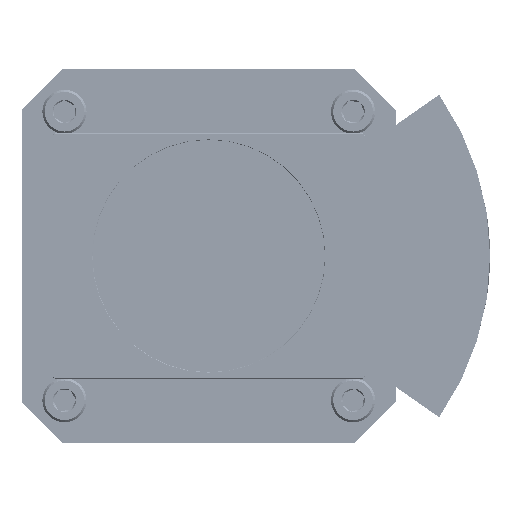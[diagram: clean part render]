
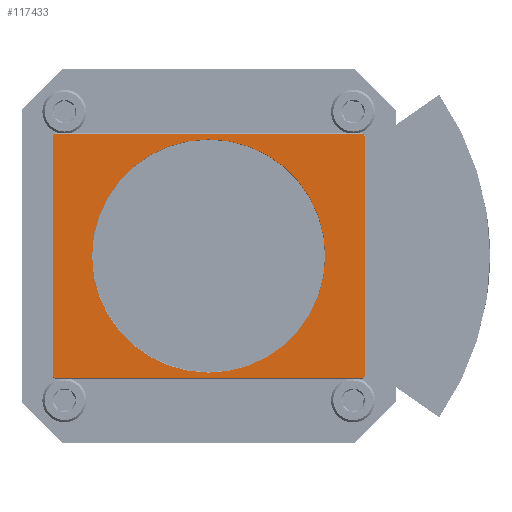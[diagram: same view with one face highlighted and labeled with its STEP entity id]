
A CAD part, front view. The second image highlights one B-rep face of the part: STEP entity #117433.
In plain terms, the highlighted planar face has unit normal (0, -1, 0).
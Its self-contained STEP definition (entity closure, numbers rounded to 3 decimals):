
#162 = EDGE_CURVE ( 'NONE', #99418, #181064, #19288, .T. ) ;
#2277 = DIRECTION ( 'NONE',  ( 0., 0., 1. ) ) ;
#2820 = AXIS2_PLACEMENT_3D ( 'NONE', #95492, #37910, #149501 ) ;
#6347 = ORIENTED_EDGE ( 'NONE', *, *, #41730, .T. ) ;
#7804 = DIRECTION ( 'NONE',  ( 0., 0., 1. ) ) ;
#9478 = CIRCLE ( 'NONE', #89578, 34.35 ) ;
#10269 = CARTESIAN_POINT ( 'NONE',  ( 45., 0., 35.15 ) ) ;
#11900 = LINE ( 'NONE', #68604, #123070 ) ;
#12810 = EDGE_CURVE ( 'NONE', #16128, #131204, #29501, .T. ) ;
#12970 = DIRECTION ( 'NONE',  ( 0., 0., 1. ) ) ;
#13035 = ORIENTED_EDGE ( 'NONE', *, *, #121995, .T. ) ;
#16128 = VERTEX_POINT ( 'NONE', #93301 ) ;
#19288 = CIRCLE ( 'NONE', #132158, 0.9 ) ;
#19907 = CARTESIAN_POINT ( 'NONE',  ( -46., 0., 36.05 ) ) ;
#22761 = EDGE_CURVE ( 'NONE', #23422, #135552, #94443, .T. ) ;
#23243 = DIRECTION ( 'NONE',  ( 0., 0., 1. ) ) ;
#23422 = VERTEX_POINT ( 'NONE', #108458 ) ;
#24144 = DIRECTION ( 'NONE',  ( 0., -1., 0. ) ) ;
#26526 = ORIENTED_EDGE ( 'NONE', *, *, #156336, .T. ) ;
#28692 = CARTESIAN_POINT ( 'NONE',  ( -45., 0., 35.15 ) ) ;
#29350 = CARTESIAN_POINT ( 'NONE',  ( -45., 0., -35.15 ) ) ;
#29501 = CIRCLE ( 'NONE', #2820, 34.35 ) ;
#30979 = CIRCLE ( 'NONE', #84389, 0.9 ) ;
#31024 = CARTESIAN_POINT ( 'NONE',  ( 0., 0., 0. ) ) ;
#32119 = DIRECTION ( 'NONE',  ( 0., -1., 0. ) ) ;
#36728 = CARTESIAN_POINT ( 'NONE',  ( -45., 0., 36.05 ) ) ;
#37873 = CARTESIAN_POINT ( 'NONE',  ( 45., 0., -36.05 ) ) ;
#37910 = DIRECTION ( 'NONE',  ( 0., 1., 0. ) ) ;
#41730 = EDGE_CURVE ( 'NONE', #181064, #102364, #11900, .T. ) ;
#44106 = AXIS2_PLACEMENT_3D ( 'NONE', #147267, #74781, #2277 ) ;
#48695 = DIRECTION ( 'NONE',  ( 0., 1., 0. ) ) ;
#51710 = CARTESIAN_POINT ( 'NONE',  ( -46., 0., -36.05 ) ) ;
#60958 = DIRECTION ( 'NONE',  ( 0., 0., 1. ) ) ;
#61452 = VERTEX_POINT ( 'NONE', #117929 ) ;
#62649 = DIRECTION ( 'NONE',  ( -1., 0., 0. ) ) ;
#63052 = CARTESIAN_POINT ( 'NONE',  ( -45.9, 0., 35.15 ) ) ;
#67018 = CARTESIAN_POINT ( 'NONE',  ( -46., 0., 36.15 ) ) ;
#67596 = ORIENTED_EDGE ( 'NONE', *, *, #108213, .T. ) ;
#68604 = CARTESIAN_POINT ( 'NONE',  ( -45.9, 0., 36.15 ) ) ;
#71577 = DIRECTION ( 'NONE',  ( 0., 0., 1. ) ) ;
#74578 = FACE_BOUND ( 'NONE', #128384, .T. ) ;
#74781 = DIRECTION ( 'NONE',  ( 0., -1., 0. ) ) ;
#80511 = DIRECTION ( 'NONE',  ( 1., 0., 0. ) ) ;
#82664 = AXIS2_PLACEMENT_3D ( 'NONE', #29350, #32119, #60958 ) ;
#82836 = VECTOR ( 'NONE', #62649, 1000. ) ;
#84389 = AXIS2_PLACEMENT_3D ( 'NONE', #10269, #24144, #23243 ) ;
#85245 = EDGE_LOOP ( 'NONE', ( #112948, #93257, #125441, #26526, #138940, #13035, #108062, #6347 ) ) ;
#85296 = DIRECTION ( 'NONE',  ( 0., 0., -1. ) ) ;
#89578 = AXIS2_PLACEMENT_3D ( 'NONE', #31024, #48695, #7804 ) ;
#93257 = ORIENTED_EDGE ( 'NONE', *, *, #22761, .T. ) ;
#93301 = CARTESIAN_POINT ( 'NONE',  ( 0., 0., 34.35 ) ) ;
#94443 = LINE ( 'NONE', #51710, #144289 ) ;
#95492 = CARTESIAN_POINT ( 'NONE',  ( 0., 0., 0. ) ) ;
#96634 = LINE ( 'NONE', #98485, #108153 ) ;
#98485 = CARTESIAN_POINT ( 'NONE',  ( 45.9, 0., 36.15 ) ) ;
#99418 = VERTEX_POINT ( 'NONE', #36728 ) ;
#100153 = CARTESIAN_POINT ( 'NONE',  ( 45., 0., 36.05 ) ) ;
#102364 = VERTEX_POINT ( 'NONE', #159972 ) ;
#104810 = EDGE_CURVE ( 'NONE', #135552, #140134, #145018, .T. ) ;
#108062 = ORIENTED_EDGE ( 'NONE', *, *, #162, .T. ) ;
#108153 = VECTOR ( 'NONE', #12970, 1000. ) ;
#108213 = EDGE_CURVE ( 'NONE', #131204, #16128, #9478, .T. ) ;
#108458 = CARTESIAN_POINT ( 'NONE',  ( -45., 0., -36.05 ) ) ;
#112948 = ORIENTED_EDGE ( 'NONE', *, *, #159118, .T. ) ;
#117433 = ADVANCED_FACE ( 'NONE', ( #159171, #74578 ), #160103, .F. ) ;
#117929 = CARTESIAN_POINT ( 'NONE',  ( 45.9, 0., 35.15 ) ) ;
#120968 = CARTESIAN_POINT ( 'NONE',  ( 45.9, 0., -35.15 ) ) ;
#121995 = EDGE_CURVE ( 'NONE', #170000, #99418, #172476, .T. ) ;
#122067 = ORIENTED_EDGE ( 'NONE', *, *, #12810, .T. ) ;
#123070 = VECTOR ( 'NONE', #85296, 1000. ) ;
#123738 = DIRECTION ( 'NONE',  ( 0., 0., 1. ) ) ;
#125441 = ORIENTED_EDGE ( 'NONE', *, *, #104810, .T. ) ;
#128384 = EDGE_LOOP ( 'NONE', ( #67596, #122067 ) ) ;
#131204 = VERTEX_POINT ( 'NONE', #146705 ) ;
#132158 = AXIS2_PLACEMENT_3D ( 'NONE', #28692, #157081, #71577 ) ;
#135552 = VERTEX_POINT ( 'NONE', #37873 ) ;
#138940 = ORIENTED_EDGE ( 'NONE', *, *, #156159, .T. ) ;
#139557 = DIRECTION ( 'NONE',  ( 0., 1., 0. ) ) ;
#140134 = VERTEX_POINT ( 'NONE', #120968 ) ;
#144289 = VECTOR ( 'NONE', #80511, 1000. ) ;
#145018 = CIRCLE ( 'NONE', #44106, 0.9 ) ;
#146705 = CARTESIAN_POINT ( 'NONE',  ( 0., 0., -34.35 ) ) ;
#147267 = CARTESIAN_POINT ( 'NONE',  ( 45., 0., -35.15 ) ) ;
#149501 = DIRECTION ( 'NONE',  ( 0., 0., 1. ) ) ;
#154275 = AXIS2_PLACEMENT_3D ( 'NONE', #67018, #139557, #123738 ) ;
#156159 = EDGE_CURVE ( 'NONE', #61452, #170000, #30979, .T. ) ;
#156336 = EDGE_CURVE ( 'NONE', #140134, #61452, #96634, .T. ) ;
#157081 = DIRECTION ( 'NONE',  ( 0., -1., 0. ) ) ;
#159118 = EDGE_CURVE ( 'NONE', #102364, #23422, #171334, .T. ) ;
#159171 = FACE_OUTER_BOUND ( 'NONE', #85245, .T. ) ;
#159972 = CARTESIAN_POINT ( 'NONE',  ( -45.9, 0., -35.15 ) ) ;
#160103 = PLANE ( 'NONE',  #154275 ) ;
#170000 = VERTEX_POINT ( 'NONE', #100153 ) ;
#171334 = CIRCLE ( 'NONE', #82664, 0.9 ) ;
#172476 = LINE ( 'NONE', #19907, #82836 ) ;
#181064 = VERTEX_POINT ( 'NONE', #63052 ) ;
